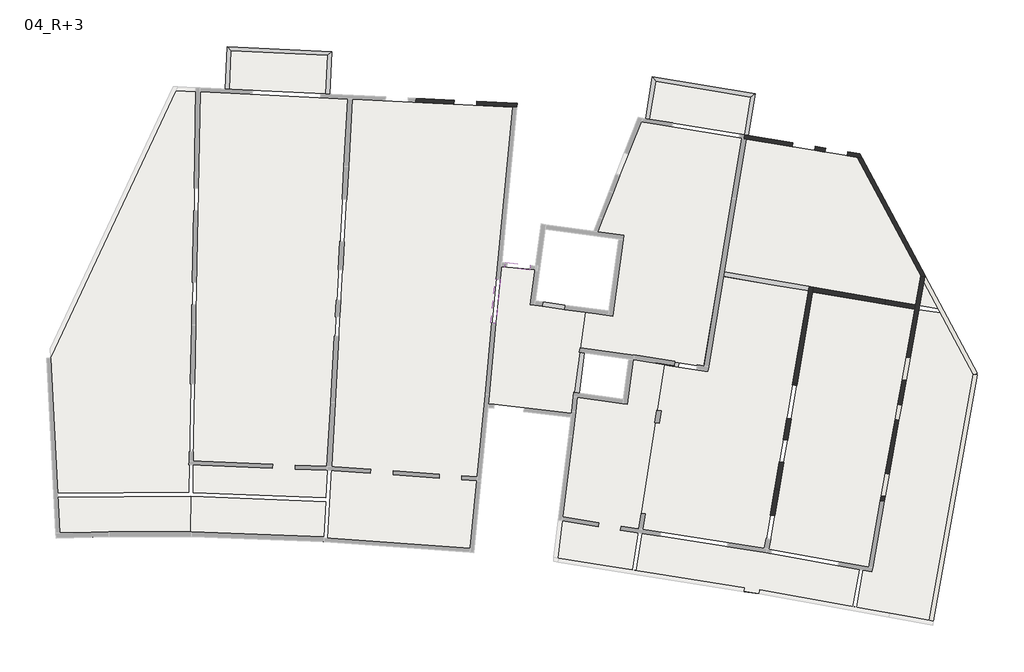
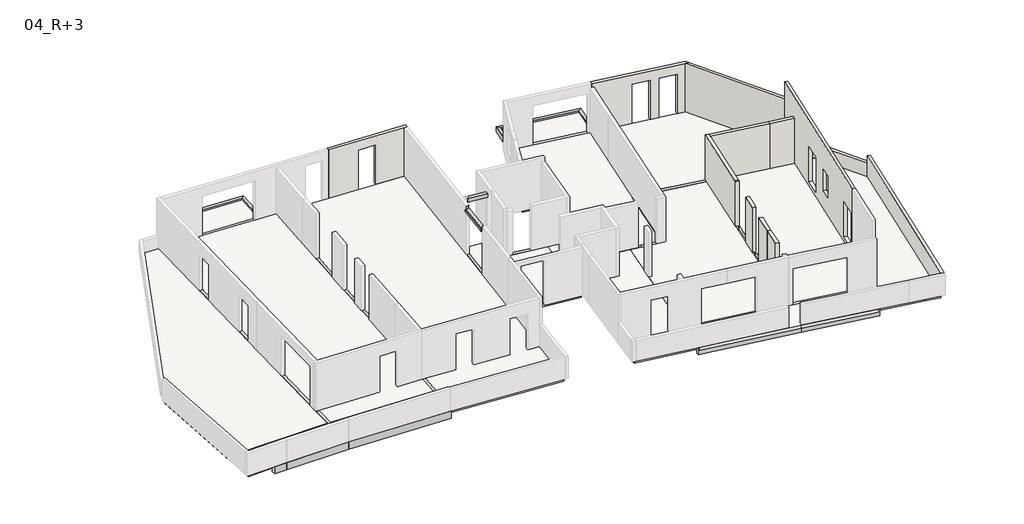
# One storey, part 2 of 2: 20 beams, 14 slabs, 13 walls.
"""IFC4 building model written with IfcOpenShell, lengths in millimetres."""

from ifc_helpers import new_model, si_unit, frame, origin, place, context, project, spatial, polyline, outline, extrude, faceted_brep, element, save

model = new_model("IFC4")

# Units and contexts
model_context = context("Model", 3, world=origin())
ifc_project = project(units=[si_unit("LENGTHUNIT", "METRE", prefix="MILLI")], contexts=[model_context])

# Site, building, storey
site = spatial("IfcSite", under=ifc_project)
building = spatial("IfcBuilding", under=site)
storey = spatial("IfcBuildingStorey", under=building, Name="04_R+3", Elevation=29840.0)

# Beams
placement = place(None, origin())
element("IfcBeam", 1, ObjectType="Poutre_Rect_2013_JBE : 15x30ht", at=placement, inside=storey, context=model_context, shape_type="SweptSolid", body=[
    extrude(outline(polyline([(-4897.6321817, 18555.1374989), (-4972.2208901, 17017.0070505), (-5122.0448377, 17024.2723609), (-5040.1906967, 18712.2268677), (-4897.6321817, 18555.1374989)])), frame((0.0, 0.0, 29640.0), z_axis=(0.0, 0.0, 1.0), x_axis=(1.0, 0.0, 0.0)), (0.0, 0.0, 1.0), 300.0),
])
element("IfcBeam", 2, ObjectType="Poutre_Rect_2013_JBE : 15x30ht", at=placement, inside=storey, context=model_context, shape_type="SweptSolid", body=[
    extrude(outline(polyline([(-1056.2148101, 18368.8552752), (-4897.6321817, 18555.1374989), (-5040.1906967, 18712.2268677), (-899.1209865, 18511.4135742), (-1056.2148101, 18368.8552752)])), frame((0.0, 0.0, 29640.0), z_axis=(0.0, 0.0, 1.0), x_axis=(1.0, 0.0, 0.0)), (0.0, 0.0, 1.0), 300.0),
])
element("IfcBeam", 3, ObjectType="Poutre_Rect_2013_JBE : 15x30ht", at=placement, inside=storey, context=model_context, shape_type="SweptSolid", body=[
    extrude(outline(polyline([(-1056.2148101, 18368.8552752), (-899.1209865, 18511.4135742), (-981.02516, 16823.4647213), (-1130.8491077, 16830.7300317), (-1056.2148101, 18368.8552752)])), frame((0.0, 0.0, 29640.0), z_axis=(0.0, 0.0, 1.0), x_axis=(1.0, 0.0, 0.0)), (0.0, 0.0, 1.0), 300.0),
])
element("IfcBeam", 4, ObjectType="Poutre_Rect_2013_JBE : 15x30ht", at=placement, inside=storey, context=model_context, shape_type="SweptSolid", body=[
    extrude(outline(polyline([(11954.2991438, 17331.4177067), (11708.1373975, 15831.4933949), (11560.1174246, 15855.7851146), (11830.578246, 17503.769691), (11954.2991438, 17331.4177067)])), frame((0.0, 0.0, 29640.0), z_axis=(0.0, 0.0, 1.0), x_axis=(1.0, 0.0, 0.0)), (0.0, 0.0, 1.0), 300.0),
])
element("IfcBeam", 5, ObjectType="Poutre_Rect_2013_JBE : 15x30ht", at=placement, inside=storey, context=model_context, shape_type="SweptSolid", body=[
    extrude(outline(polyline([(15739.3899059, 16709.1812249), (11954.2991438, 17331.4177067), (11830.578246, 17503.769691), (15911.7353663, 16832.8624373), (15739.3899059, 16709.1812249)])), frame((0.0, 0.0, 29640.0), z_axis=(0.0, 0.0, 1.0), x_axis=(1.0, 0.0, 0.0)), (0.0, 0.0, 1.0), 300.0),
])
element("IfcBeam", 6, ObjectType="Poutre_Rect_2013_JBE : 15x30ht", at=placement, inside=storey, context=model_context, shape_type="SweptSolid", body=[
    extrude(outline(polyline([(15492.9959048, 15210.3561242), (15739.3899059, 16709.1812249), (15911.7353663, 16832.8624373), (15641.0158831, 15186.0644036), (15492.9959048, 15210.3561242)])), frame((0.0, 0.0, 29640.0), z_axis=(0.0, 0.0, 1.0), x_axis=(1.0, 0.0, 0.0)), (0.0, 0.0, 1.0), 300.0),
])
element("IfcBeam", 7, ObjectType="Poutre_Rect_2013_JBE : 16x40ht", at=placement, inside=storey, context=model_context, shape_type="Brep", body=[
    faceted_brep([(16067.9119622, -3013.8115401, 29840.0), (16067.9119622, -3013.8115401, 29440.0), (16092.9265957, -2855.7790494, 29440.0), (16092.9265957, -2855.7790494, 29840.0), (15456.0438842, -2916.9602177, 29840.0), (11088.7031384, -2225.6629565, 29840.0), (11088.7031384, -2225.6629565, 29440.0), (11113.4112314, -2067.5819441, 29440.0), (11192.4276254, -2080.0892844, 29440.0), (11113.4112314, -2067.5819441, 29840.0), (11192.4276254, -2080.0892844, 29840.0), (15481.0585177, -2758.927727, 29840.0)], [[[0, 1, 2, 3]], [[1, 0, 4, 5, 6]], [[2, 1, 6, 7, 8]], [[3, 2, 8, 7, 9, 10, 11]], [[0, 3, 11, 10, 9, 5, 4]], [[5, 9, 7, 6]]]),
])
element("IfcBeam", 8, ObjectType="Poutre_Rect_2013_JBE : 16x40ht", at=placement, inside=storey, context=model_context, shape_type="SweptSolid", body=[
    extrude(outline(polyline([(16066.4277326, -3013.5622716), (16094.4108253, -2856.028318), (19851.2645179, -3523.3662642), (19823.0836221, -3680.8650816), (16066.4277326, -3013.5622716)])), frame((0.0, 0.0, 29440.0), z_axis=(0.0, 0.0, 1.0), x_axis=(1.0, 0.0, 0.0)), (0.0, 0.0, 1.0), 400.0),
])
element("IfcBeam", 9, ObjectType="Poutre_Rect_2013_JBE : 18x40ht", at=placement, inside=storey, context=model_context, shape_type="Brep", body=[
    faceted_brep([(17778.7010793, 6542.2881711, 29840.0), (17778.7010793, 6542.2881711, 29440.0), (17601.2414169, 6572.4223416, 29440.0), (17601.2414169, 6572.4223416, 29640.0), (17606.0991196, 6571.5974621, 29640.0), (17606.0991196, 6571.5974621, 29840.0), (17396.5359018, 5366.9147413, 29440.0), (17573.9955642, 5336.7805708, 29440.0), (17573.9955642, 5336.7805708, 29840.0), (17401.4032846, 5366.0882181, 29840.0), (17401.4032846, 5366.0882181, 29640.0), (17396.5359018, 5366.9147413, 29640.0)], [[[0, 1, 2, 3, 4, 5]], [[6, 7, 8, 9, 10, 11]], [[1, 0, 8, 7]], [[2, 1, 7, 6]], [[2, 6, 11, 3]], [[8, 0, 5, 9]], [[10, 4, 3, 11]], [[4, 10, 9, 5]]]),
])
element("IfcBeam", 10, ObjectType="Poutre_Rect_2013_JBE : 18x65ht", at=placement, inside=storey, context=model_context, shape_type="Brep", body=[
    faceted_brep([(-886.7818422, 5474.0786392, 29190.0), (-707.0620227, 5464.0393923, 29190.0), (-707.0620227, 5464.0393923, 29640.0), (-707.6721322, 5464.0734734, 29640.0), (-707.6721322, 5464.0734734, 29840.0), (-872.5323256, 5473.2826534, 29840.0), (-872.5323256, 5473.2826534, 29640.0), (-886.7818422, 5474.0786392, 29640.0), (-655.1925807, 6392.5917931, 29190.0), (-834.9124002, 6402.6310399, 29190.0), (-834.9124002, 6402.6310399, 29640.0), (-821.8837564, 6401.9032528, 29640.0), (-821.8837564, 6401.9032528, 29840.0), (-655.6741432, 6392.6186935, 29840.0), (-655.6741432, 6392.6186935, 29640.0), (-655.1925807, 6392.5917931, 29640.0)], [[[0, 1, 2, 3, 4, 5, 6, 7]], [[8, 9, 10, 11, 12, 13, 14, 15]], [[9, 0, 7, 10]], [[1, 0, 9, 8]], [[1, 8, 15, 2]], [[12, 5, 4, 13]], [[6, 11, 10, 7]], [[11, 6, 5, 12]], [[14, 3, 2, 15]], [[3, 14, 13, 4]]]),
])
element("IfcBeam", 11, ObjectType="Poutre_Rect_2013_JBE : 18x65ht", at=placement, inside=storey, context=model_context, shape_type="Brep", body=[
    faceted_brep([(8345.578671, 8275.1041102, 29190.0), (8369.8748052, 8453.4568445, 29190.0), (8369.8748052, 8453.4568445, 29840.0), (8345.578671, 8275.1041102, 29840.0), (8345.578671, 8275.1041102, 29640.0), (7453.8150119, 8396.5847795, 29190.0), (7453.8150119, 8396.5847795, 29840.0), (7453.8150119, 8396.5847795, 29640.0), (7478.1111461, 8574.9375139, 29190.0), (7478.1111461, 8574.9375139, 29840.0)], [[[0, 1, 2, 3, 4]], [[5, 0, 4, 3, 6, 7]], [[1, 0, 5, 8]], [[2, 1, 8, 9]], [[3, 2, 9, 6]], [[8, 5, 7, 6, 9]]]),
])
element("IfcBeam", 12, ObjectType="Poutre_Rect_2013_JBE : 18x65ht", at=placement, inside=storey, context=model_context, shape_type="Brep", body=[
    faceted_brep([(12849.2155372, 5991.0765211, 29190.0), (12877.9288209, 6168.7716177, 29190.0), (12877.9288209, 6168.7716177, 29840.0), (12849.2155372, 5991.0765211, 29840.0), (12849.2155372, 5991.0765211, 29640.0), (11960.7400544, 6134.6429392, 29840.0), (11989.453338, 6312.3380358, 29840.0), (11989.453338, 6312.3380358, 29190.0), (11960.7400544, 6134.6429392, 29190.0), (12473.4051932, 6051.8027269, 29840.0), (12463.6536661, 6053.3784505, 29840.0)], [[[0, 1, 2, 3, 4]], [[5, 6, 7, 8]], [[5, 8, 0, 4, 3, 9, 10]], [[1, 0, 8, 7]], [[2, 1, 7, 6]], [[3, 2, 6, 5, 10, 9]]]),
])
element("IfcBeam", 13, ObjectType="Poutre_Rect_2013_JBE : 20x20ht", at=placement, inside=storey, context=model_context, shape_type="SweptSolid", body=[
    extrude(outline(polyline([(5969.9988945, 9957.6769673), (5994.2132062, 10156.2057237), (6986.8569881, 10035.1341656), (6979.4329038, 9974.2654429), (6965.3621839, 9871.5448846), (6966.8788622, 9871.3371291), (6962.6426765, 9836.6054092), (5969.9988945, 9957.6769673)])), frame((0.0, 0.0, 32340.0), z_axis=(0.0, 0.0, 1.0), x_axis=(1.0, 0.0, 0.0)), (0.0, 0.0, 1.0), 200.0),
])
element("IfcBeam", 14, ObjectType="Poutre_Rect_2013_JBE : 20x30ht", at=placement, inside=storey, context=model_context, shape_type="Brep", body=[
    faceted_brep([(5789.8801731, 9468.4050705, 32240.0), (5590.8229104, 9487.8011058, 32240.0), (5590.8229104, 9487.8011058, 32340.0), (5630.8498129, 9483.9009054, 32340.0), (5630.8498129, 9483.9009054, 32540.0), (5764.9739737, 9470.8319175, 32540.0), (5764.9739737, 9470.8319175, 32380.0), (5789.8801731, 9468.4050705, 32380.0), (5420.6305312, 7741.1539909, 32240.0), (5619.6877939, 7721.7579556, 32240.0), (5619.6877939, 7721.7579556, 32380.0), (5461.3375455, 7737.1875208, 32380.0), (5461.3375455, 7737.1875208, 32340.0), (5420.6305312, 7741.1539909, 32340.0), (5630.3902791, 9479.165709, 32540.0), (5630.3902791, 9479.165709, 32380.0)], [[[0, 1, 2, 3, 4, 5, 6, 7]], [[8, 9, 10, 11, 12, 13]], [[9, 0, 7, 10]], [[1, 0, 9, 8]], [[1, 8, 13, 2]], [[5, 4, 14]], [[10, 7, 6, 15, 11]], [[6, 5, 14, 15]], [[12, 3, 2, 13]], [[3, 12, 11, 15, 14, 4]]]),
])
element("IfcBeam", 15, ObjectType="Poutre_Rect_2013_JBE : 20x40ht", at=placement, inside=storey, context=model_context, shape_type="Brep", body=[
    faceted_brep([(-10377.5164219, -760.6029286, 29840.0), (-10382.1524229, -560.6566671, 29840.0), (-10382.1524229, -560.6566671, 29640.0), (-10382.1524229, -560.6566671, 29440.0), (-10377.5164219, -760.6029286, 29440.0), (-9738.8472296, -745.7945946, 29440.0), (-9738.8472296, -745.7945946, 29840.0), (-9741.1655416, -545.7945946, 29440.0), (-9741.1655416, -545.7945946, 29840.0), (-9741.1655416, -545.7945946, 29640.0)], [[[0, 1, 2, 3, 4]], [[0, 4, 5, 6]], [[4, 3, 7, 5]], [[7, 3, 2, 1, 8, 9]], [[1, 0, 6, 8]], [[6, 5, 7, 9, 8]]]),
])
element("IfcBeam", 16, ObjectType="Poutre_Rect_2013_JBE : 20x40ht", at=placement, inside=storey, context=model_context, shape_type="Brep", body=[
    faceted_brep([(-6470.1205438, -745.7945946, 29840.0), (-6470.1205438, -745.7945946, 29440.0), (-6470.1205438, -545.7945946, 29440.0), (-6470.1205438, -545.7945946, 29640.0), (-6470.1205438, -547.7580092, 29640.0), (-6470.1205438, -547.7580092, 29840.0), (-9738.8472296, -745.7945946, 29840.0), (-9738.8472296, -745.7945946, 29440.0), (-9741.1655416, -545.7945946, 29440.0), (-9741.1655416, -545.7945946, 29640.0), (-9741.1655416, -545.7945946, 29840.0), (-6521.9524802, -545.7945946, 29840.0), (-6521.9524802, -545.7945946, 29640.0)], [[[0, 1, 2, 3, 4, 5]], [[1, 0, 6, 7]], [[2, 1, 7, 8]], [[2, 8, 9, 10, 11, 12, 3]], [[6, 0, 5, 11, 10]], [[6, 10, 9, 8, 7]], [[12, 4, 3]], [[4, 12, 11, 5]]]),
])
element("IfcBeam", 17, ObjectType="Poutre_Rect_2013_JBE : 20x40ht", at=placement, inside=storey, context=model_context, shape_type="Brep", body=[
    faceted_brep([(-6466.3285104, -545.8665181, 29440.0), (-6473.9125772, -745.7226712, 29440.0), (-6473.9125772, -745.7226712, 29840.0), (-6466.4056281, -547.8987317, 29840.0), (-6466.4056281, -547.8987317, 29640.0), (-6466.3285104, -545.8665181, 29640.0), (-1177.4784378, -946.7097794, 29440.0), (-1177.4784378, -946.7097794, 29840.0), (-1223.2236227, -944.9738582, 29840.0), (-1215.639556, -745.1177051, 29440.0), (-1226.7022559, -943.1590985, 29440.0), (-1215.639556, -745.1177051, 29640.0), (-1226.7022559, -943.1590985, 29840.0), (-1217.7773089, -783.3871672, 29840.0), (-1215.7333235, -746.7963056, 29840.0), (-1215.7333235, -746.7963056, 29640.0)], [[[0, 1, 2, 3, 4, 5]], [[2, 1, 6, 7, 8]], [[1, 0, 9, 10, 6]], [[0, 5, 11, 9]], [[7, 12, 13, 14, 3, 2, 8]], [[10, 12, 7, 6]], [[12, 10, 9, 11, 15, 14, 13]], [[4, 15, 11, 5]], [[15, 4, 3, 14]]]),
])
element("IfcBeam", 18, ObjectType="Poutre_Rect_2013_JBE : 20x50ht", at=placement, inside=storey, context=model_context, shape_type="Brep", body=[
    faceted_brep([(18132.7943524, 9164.6624057, 29840.0), (18132.7943524, 9164.6624057, 29340.0), (18137.8624977, 9194.042281, 29340.0), (18137.8624977, 9194.042281, 29640.0), (18136.1159662, 9183.9176936, 29640.0), (18136.1159662, 9183.9176936, 29840.0), (14647.2755695, 9593.2284562, 29840.0), (14647.2755695, 9593.2284562, 29340.0), (18015.432324, 9012.208025, 29340.0), (18015.432324, 9012.208025, 29640.0), (16766.6679308, 9227.6248476, 29640.0), (16766.6679308, 9227.6248476, 29840.0), (14679.7922688, 9790.5731439, 29340.0), (18043.9095994, 9179.9098388, 29340.0), (14679.7922688, 9790.5731439, 29840.0), (14681.6460381, 9790.2533614, 29840.0), (14681.6460381, 9790.2533614, 29640.0), (18017.104511, 9022.0554836, 29840.0), (18043.9095994, 9179.9098388, 29840.0), (18047.0065975, 9199.5539284, 29840.0), (14679.9795559, 9780.0987631, 29840.0), (18017.104511, 9022.0554836, 29640.0), (14679.9795559, 9780.0987631, 29640.0), (18047.0065975, 9199.5539284, 29640.0)], [[[0, 1, 2, 3, 4, 5]], [[6, 7, 8, 9, 10, 11]], [[12, 2, 1, 13, 8, 7]], [[2, 12, 14, 15, 16, 3]], [[14, 6, 11, 17, 18, 0, 5, 19, 20, 15]], [[7, 6, 14, 12]], [[13, 18, 17, 21, 9, 8]], [[18, 13, 1, 0]], [[3, 16, 22, 23, 4]], [[23, 19, 5, 4]], [[23, 22, 20, 19]], [[20, 22, 16, 15]], [[21, 10, 9]], [[10, 21, 17, 11]]]),
])
element("IfcBeam", 19, ObjectType="Poutre_Rect_2013_JBE : 20x60ht", at=placement, inside=storey, context=model_context, shape_type="Brep", body=[
    faceted_brep([(9132.3970768, 6547.1723849, 29240.0), (9132.3970768, 6547.1723849, 29840.0), (8916.4361163, 4961.8341813, 29840.0), (8916.4361163, 4961.8341813, 29240.0), (8934.2274295, 6574.1685123, 29240.0), (8718.2664691, 4988.8303087, 29240.0), (8718.2664691, 4988.8303087, 29640.0), (8934.2274295, 6574.1685123, 29640.0), (8952.8913041, 6571.625982, 29840.0), (8735.7527171, 4986.4482034, 29840.0), (8952.8913041, 6571.625982, 29640.0), (8735.7527171, 4986.4482034, 29640.0)], [[[0, 1, 2, 3]], [[4, 0, 3, 5]], [[4, 5, 6, 7]], [[2, 1, 8, 9]], [[1, 0, 4, 7, 10, 8]], [[3, 2, 9, 11, 6, 5]], [[11, 10, 7, 6]], [[10, 11, 9, 8]]]),
])
element("IfcBeam", 20, ObjectType="Poutre_Rect_2013_JBE : 25x50ht", at=placement, inside=storey, context=model_context, shape_type="Brep", body=[
    faceted_brep([(14679.6508095, 9574.4290433, 29840.0), (14679.6508095, 9574.4290433, 29340.0), (14432.9233258, 9614.7471385, 29340.0), (14432.9233258, 9614.7471385, 29840.0), (14679.0615908, 9570.8233068, 29840.0), (14679.0615908, 9570.8233068, 29640.0), (14076.5789741, 5883.9174895, 29640.0), (14076.5789741, 5883.9174895, 29340.0), (14042.2038411, 5889.4720769, 29340.0), (14056.5604829, 5978.3196252, 29340.0), (13844.2943763, 6012.6191474, 29340.0), (13844.2943763, 6012.6191474, 29840.0), (14055.0154358, 5978.5692853, 29840.0), (14058.9087202, 6002.2513414, 29840.0), (14646.4562887, 9576.1835557, 29840.0), (14042.2038411, 5889.4720769, 29640.0), (14056.5604829, 5978.3196252, 29640.0), (14055.0154358, 5978.5692853, 29640.0), (14646.4562887, 9576.1835557, 29640.0)], [[[0, 1, 2, 3]], [[1, 0, 4, 5, 6, 7]], [[2, 1, 7, 8, 9, 10]], [[3, 2, 10, 11]], [[0, 3, 11, 12, 13, 14, 4]], [[8, 7, 6, 15]], [[10, 9, 16, 17, 12, 11]], [[9, 8, 15, 16]], [[18, 17, 16, 15, 6, 5]], [[14, 18, 5, 4]], [[18, 14, 13, 12, 17]]]),
])

# Slabs
element("IfcSlab", 21, ObjectType="Dalle Béton - 20 cm", at=placement, inside=storey, context=model_context, shape_type="Brep", body=[
    faceted_brep([(-84.0581099, 16619.7807007, 29640.0), (6293.3492324, 16310.5254411, 29640.0), (4873.6318892, 1681.263946, 29640.0), (4593.763886, -1202.5933393, 29640.0), (-1058.1709907, -794.9001121, 29640.0), (-707.6721322, 5464.0734734, 29640.0), (-655.6741432, 6392.6186935, 29640.0), (-618.6315236, 7054.1009556, 29640.0), (-400.7099089, 10946.5136181, 29640.0), (-84.0581099, 16619.7807007, 29840.0), (-400.7099089, 10946.5136181, 29840.0), (-618.6315236, 7054.1009556, 29840.0), (-655.6741432, 6392.6186935, 29840.0), (-707.6721322, 5464.0734734, 29840.0), (-1058.1709907, -794.9001121, 29840.0), (4593.763886, -1202.5933393, 29840.0), (4873.6318892, 1681.263946, 29840.0), (6293.3492324, 16310.5254411, 29840.0)], [[[0, 1, 2, 3, 4, 5, 6, 7, 8]], [[9, 10, 11, 12, 13, 14, 15, 16, 17]], [[1, 0, 9, 17]], [[8, 7, 6, 5, 4, 14, 13, 12, 11, 10]], [[0, 8, 10, 9]], [[3, 2, 1, 17, 16, 15]], [[4, 3, 15, 14]]]),
])
element("IfcSlab", 22, ObjectType="Dalle Béton - 20 cm", at=placement, inside=storey, context=model_context, shape_type="SweptSolid", body=[
    extrude(outline(polyline([(-1056.2272748, 18368.8502373), (-1130.8143694, 16830.7283471), (-4972.2217295, 17017.0070912), (-4897.6328932, 18555.132786), (-1056.2272748, 18368.8502373)])), frame((0.0, 0.0, 29640.0), z_axis=(0.0, 0.0, 1.0), x_axis=(1.0, 0.0, 0.0)), (0.0, 0.0, 1.0), 200.0),
])
element("IfcSlab", 23, ObjectType="Dalle Béton - 17 cm", at=placement, inside=storey, context=model_context, shape_type="SweptSolid", body=[
    extrude(outline(polyline([(15739.7698458, 16710.1751571), (15493.0188161, 15209.1782367), (11707.9534294, 15830.3684517), (11954.3020467, 17331.4314144), (15739.7698458, 16710.1751571)])), frame((0.0, 0.0, 29670.0), z_axis=(0.0, 0.0, 1.0), x_axis=(1.0, 0.0, 0.0)), (0.0, 0.0, 1.0), 170.0),
])
element("IfcSlab", 24, ObjectType="Dalle Béton - 20 cm", at=placement, inside=storey, context=model_context, shape_type="Brep", body=[
    faceted_brep([(19957.6989971, 14315.5085337, 29640.0), (23179.6439414, 8298.9177306, 29640.0), (18136.1159662, 9183.9176936, 29640.0), (18047.0065975, 9199.5539284, 29640.0), (14679.9795559, 9780.0987631, 29640.0), (14681.6460381, 9790.2533614, 29640.0), (15543.1843168, 15039.9793679, 29640.0), (19957.6989971, 14315.5085337, 29840.0), (15543.1843168, 15039.9793679, 29840.0), (14679.9795559, 9780.0987631, 29840.0), (18047.0065975, 9199.5539284, 29840.0), (18136.1159662, 9183.9176936, 29840.0), (23179.6439414, 8298.9177306, 29840.0)], [[[0, 1, 2, 3, 4, 5, 6]], [[7, 8, 9, 10, 11, 12]], [[1, 0, 7, 12]], [[4, 3, 10, 9]], [[6, 5, 4, 9, 8]], [[0, 6, 8, 7]], [[3, 2, 1, 12, 11, 10]]]),
])
element("IfcSlab", 25, ObjectType="Dalle Béton - 17 cm", at=placement, inside=storey, context=model_context, shape_type="SweptSolid", body=[
    extrude(outline(polyline([(20033.8954714, -2048.6278586), (19746.3804691, -3667.2257584), (16067.9119622, -3013.8115401), (11167.7195324, -2238.1702968), (11422.1634217, -610.2523634), (16342.5514803, -1379.309973), (20033.8954714, -2048.6278586)])), frame((0.0, 0.0, 29670.0), z_axis=(0.0, 0.0, 1.0), x_axis=(1.0, 0.0, 0.0)), (0.0, 0.0, 1.0), 170.0),
])
element("IfcSlab", 26, ObjectType="Dalle Béton - 20 cm", at=placement, inside=storey, context=model_context, shape_type="Brep", body=[
    faceted_brep([(22237.058662, 8277.9811363, 29640.0), (23259.8364839, 8149.1678988, 29640.0), (24569.9967889, 5702.6026787, 29640.0), (22824.0109079, -4056.6138612, 29640.0), (22081.8005798, -3923.827715, 29640.0), (19930.0509568, -3537.2493977, 29640.0), (20222.4297219, -1918.9834053, 29640.0), (16457.8893924, -1238.8284381, 29640.0), (17044.4711472, 2212.7188567, 29640.0), (17190.5946981, 3077.78123, 29640.0), (17336.9488957, 3938.5106718, 29640.0), (17560.0496027, 5250.5970217, 29640.0), (18198.2208794, 8970.809849, 29640.0), (22237.058662, 8277.9811363, 29840.0), (18198.2208794, 8970.809849, 29840.0), (17560.0496027, 5250.5970217, 29840.0), (17336.9488957, 3938.5106718, 29840.0), (17190.5946981, 3077.78123, 29840.0), (17044.4711472, 2212.7188567, 29840.0), (16457.8893924, -1238.8284381, 29840.0), (20222.4297219, -1918.9834053, 29840.0), (19930.0509568, -3537.2493977, 29840.0), (22081.8005798, -3923.827715, 29840.0), (22824.0109079, -4056.6138612, 29840.0), (24569.9967889, 5702.6026787, 29840.0), (23259.8364839, 8149.1678988, 29840.0)], [[[0, 1, 2, 3, 4, 5, 6, 7, 8, 9, 10, 11, 12]], [[13, 14, 15, 16, 17, 18, 19, 20, 21, 22, 23, 24, 25]], [[1, 0, 13, 25]], [[2, 1, 25, 24]], [[3, 2, 24, 23]], [[4, 3, 23, 22]], [[5, 4, 22, 21]], [[6, 5, 21, 20]], [[7, 6, 20, 19]], [[8, 7, 19, 18]], [[9, 8, 18, 17]], [[11, 10, 9, 17, 16, 15]], [[12, 11, 15, 14]], [[0, 12, 14, 13]]]),
])
element("IfcSlab", 27, ObjectType="Dalle Béton - 20 cm", at=placement, inside=storey, context=model_context, shape_type="Brep", body=[
    faceted_brep([(14646.4562887, 9576.1835557, 29640.0), (14679.0615908, 9570.8233068, 29640.0), (16766.6679308, 9227.6248476, 29640.0), (18017.104511, 9022.0554836, 29640.0), (18022.049593, 9021.2425217, 29640.0), (17606.0991196, 6571.5974621, 29640.0), (17401.4032846, 5366.0882181, 29640.0), (16285.0532511, -1208.3996564, 29640.0), (11446.8643835, -452.216976, 29640.0), (11541.0638106, 150.4657498, 29640.0), (11383.3706765, 175.1128296, 29640.0), (11987.9346511, 4082.0598079, 29640.0), (12151.6184582, 4056.7312499, 29640.0), (12180.4629388, 4239.4692063, 29640.0), (12022.4797353, 4264.1616232, 29640.0), (12305.6925851, 6077.0982378, 29640.0), (12463.653666, 6053.3784505, 29640.0), (14025.8156287, 5800.9528048, 29640.0), (14055.0154358, 5978.5692853, 29640.0), (14646.4562887, 9576.1835557, 29840.0), (14055.0154358, 5978.5692853, 29840.0), (14025.8156287, 5800.9528048, 29840.0), (12849.2155372, 5991.0765211, 29840.0), (12473.4051932, 6051.8027269, 29840.0), (12463.653666, 6053.3784505, 29840.0), (12305.6925851, 6077.0982378, 29840.0), (12022.4797353, 4264.1616232, 29840.0), (12180.4629388, 4239.4692063, 29840.0), (12151.6184582, 4056.7312499, 29840.0), (11987.9346511, 4082.0598079, 29840.0), (11383.3706765, 175.1128296, 29840.0), (11541.0638106, 150.4657498, 29840.0), (11446.8643835, -452.216976, 29840.0), (16285.0532511, -1208.3996564, 29840.0), (17401.4032846, 5366.0882181, 29840.0), (17606.0991196, 6571.5974621, 29840.0), (18022.049593, 9021.2425217, 29840.0), (18017.104511, 9022.0554836, 29840.0), (16766.6679308, 9227.6248476, 29840.0), (14679.0615908, 9570.8233068, 29840.0)], [[[0, 1, 2, 3, 4, 5, 6, 7, 8, 9, 10, 11, 12, 13, 14, 15, 16, 17, 18]], [[19, 20, 21, 22, 23, 24, 25, 26, 27, 28, 29, 30, 31, 32, 33, 34, 35, 36, 37, 38, 39]], [[4, 3, 2, 1, 0, 19, 39, 38, 37, 36]], [[7, 6, 5, 4, 36, 35, 34, 33]], [[8, 7, 33, 32]], [[17, 16, 24, 23, 22, 21]], [[0, 18, 17, 21, 20, 19]], [[9, 8, 32, 31]], [[10, 9, 31, 30]], [[11, 10, 30, 29]], [[12, 11, 29, 28]], [[13, 12, 28, 27]], [[14, 13, 27, 26]], [[15, 14, 26, 25]], [[16, 15, 25, 24]]]),
])
element("IfcSlab", 28, ObjectType="Dalle Béton - 20 cm", at=placement, inside=storey, context=model_context, shape_type="SweptSolid", body=[
    extrude(outline(polyline([(12305.8339369, 6077.0746523), (11034.7877019, -2055.1367896), (8081.0248123, -1587.59182), (8285.3967833, 101.550583), (8855.0627621, 4788.5348262), (10854.3246518, 4516.1760494), (11094.5000493, 6279.1943917), (12305.8339369, 6077.0746523)])), frame((0.0, 0.0, 29640.0), z_axis=(0.0, 0.0, 1.0), x_axis=(1.0, 0.0, 0.0)), (0.0, 0.0, 1.0), 200.0),
])
element("IfcSlab", 29, ObjectType="Dalle Béton - 20 cm", at=placement, inside=storey, context=model_context, shape_type="Brep", body=[
    faceted_brep([(15367.2080297, 15068.8590289, 29640.0), (13844.3236266, 6012.6143775, 29640.0), (11077.9104289, 6463.7424983, 29640.0), (8977.5243376, 6751.4546239, 29640.0), (9170.8352843, 8162.6833754, 29640.0), (10247.0028038, 8016.0822561, 29640.0), (10686.5127531, 11224.7495128, 29640.0), (9907.3644282, 11331.477336, 29640.0), (9657.5433736, 11365.6967892, 29640.0), (11375.9056437, 15723.8760304, 29640.0), (15367.2080297, 15068.8590289, 29840.0), (11375.9056437, 15723.8760304, 29840.0), (9657.5433736, 11365.6967892, 29840.0), (9907.3644282, 11331.477336, 29840.0), (10686.5127531, 11224.7495128, 29840.0), (10247.0028038, 8016.0822561, 29840.0), (9170.8352843, 8162.6833754, 29840.0), (8977.5243376, 6751.4546239, 29840.0), (11077.9104289, 6463.7424983, 29840.0), (13844.3236266, 6012.6143775, 29840.0)], [[[0, 1, 2, 3, 4, 5, 6, 7, 8, 9]], [[10, 11, 12, 13, 14, 15, 16, 17, 18, 19]], [[1, 0, 10, 19]], [[3, 2, 18, 17]], [[4, 3, 17, 16]], [[5, 4, 16, 15]], [[6, 5, 15, 14]], [[8, 7, 6, 14, 13, 12]], [[9, 8, 12, 11]], [[0, 9, 11, 10]], [[2, 1, 19, 18]]]),
])
element("IfcSlab", 30, ObjectType="Dalle Béton - 20 cm", at=placement, inside=storey, context=model_context, shape_type="Brep", body=[
    faceted_brep([(5839.9607897, 9982.21198, 29640.0), (7167.9261447, 9851.5569234, 29640.0), (6977.5111672, 8461.4693588, 29640.0), (9170.8352843, 8162.6833754, 29640.0), (8952.8913041, 6571.625982, 29640.0), (8735.7527171, 4986.4482034, 29640.0), (8622.3515401, 4158.5850936, 29640.0), (5548.5735651, 4506.795922, 29640.0), (5311.2009379, 4533.6864847, 29640.0), (5839.9607897, 9982.21198, 29840.0), (5311.2009379, 4533.6864847, 29840.0), (5548.5735651, 4506.795922, 29840.0), (8622.3515401, 4158.5850936, 29840.0), (8735.7527171, 4986.4482034, 29840.0), (8952.8913041, 6571.625982, 29840.0), (9170.8352843, 8162.6833754, 29840.0), (8345.578671, 8275.1041102, 29840.0), (7453.8150119, 8396.5847795, 29840.0), (6977.5111672, 8461.4693588, 29840.0), (7167.9261447, 9851.5569234, 29840.0)], [[[0, 1, 2, 3, 4, 5, 6, 7, 8]], [[9, 10, 11, 12, 13, 14, 15, 16, 17, 18, 19]], [[1, 0, 9, 19]], [[2, 1, 19, 18]], [[3, 2, 18, 17, 16, 15]], [[8, 7, 6, 12, 11, 10]], [[0, 8, 10, 9]], [[6, 5, 4, 3, 15, 14, 13, 12]]]),
])
element("IfcSlab", 31, ObjectType="Dalle Béton - 20 cm", at=placement, inside=storey, context=model_context, shape_type="Brep", body=[
    faceted_brep([(-6099.418731, 16911.4794758, 29640.0), (-264.1068936, 16628.5116834, 29640.0), (-821.8837564, 6401.9032528, 29640.0), (-872.5323256, 5473.2826534, 29640.0), (-1048.5453403, 2246.1567175, 29640.0), (-1128.8491651, 808.5798612, 29640.0), (-6393.1450371, 1012.7060676, 29640.0), (-6400.6245149, 2262.9052429, 29640.0), (-6099.418731, 16911.4794758, 29840.0), (-6400.6245149, 2262.9052429, 29840.0), (-6393.1450371, 1012.7060676, 29840.0), (-1128.8491651, 808.5798612, 29840.0), (-1048.5453403, 2246.1567175, 29840.0), (-872.5323256, 5473.2826534, 29840.0), (-821.8837564, 6401.9032528, 29840.0), (-264.1068936, 16628.5116834, 29840.0)], [[[0, 1, 2, 3, 4, 5, 6, 7]], [[8, 9, 10, 11, 12, 13, 14, 15]], [[1, 0, 8, 15]], [[4, 3, 2, 1, 15, 14, 13, 12]], [[5, 4, 12, 11]], [[6, 5, 11, 10]], [[0, 7, 9, 8]], [[7, 6, 10, 9]]]),
])
element("IfcSlab", 32, ObjectType="Dalle Béton - 20 cm", at=placement, inside=storey, context=model_context, shape_type="SweptSolid", body=[
    extrude(outline(polyline([(-7091.4131885, 16959.5835857), (-6284.6344842, 16920.4610168), (-6559.7330248, 2102.5499586), (-6579.1990509, 1016.2150558), (-11772.2160582, 987.5823035), (-12058.0443978, 6375.9551868), (-7091.4131885, 16959.5835857)])), frame((0.0, 0.0, 29640.0), z_axis=(0.0, 0.0, 1.0), x_axis=(1.0, 0.0, 0.0)), (0.0, 0.0, 1.0), 200.0),
])
element("IfcSlab", 33, ObjectType="Dalle Béton - 20 cm", at=placement, inside=storey, context=model_context, shape_type="Brep", body=[
    faceted_brep([(-11688.4824334, -590.9455417, 29640.0), (-11763.7311484, 827.6266547, 29640.0), (-6496.0455997, 856.6711072, 29640.0), (-6521.9524802, -545.7945946, 29640.0), (-9741.1655416, -545.7945946, 29640.0), (-11688.4824334, -590.9455417, 29840.0), (-10382.1524229, -560.6566671, 29840.0), (-9741.1655416, -545.7945946, 29840.0), (-6521.9524802, -545.7945946, 29840.0), (-6496.0455997, 856.6711072, 29840.0), (-11763.7311484, 827.6266547, 29840.0)], [[[0, 1, 2, 3, 4]], [[5, 6, 7, 8, 9, 10]], [[1, 0, 5, 10]], [[2, 1, 10, 9]], [[3, 2, 9, 8]], [[4, 3, 8, 7]], [[0, 4, 7, 6, 5]]]),
])
element("IfcSlab", 34, ObjectType="Dalle Béton - 20 cm", at=placement, inside=storey, context=model_context, shape_type="Brep", body=[
    faceted_brep([(-6521.9524802, -545.7945946, 29640.0), (-6496.0473579, 856.5759278, 29640.0), (-1137.7742368, 648.8056976, 29640.0), (-1215.639556, -745.1177051, 29640.0), (-1215.7333235, -746.7963056, 29640.0), (-6466.4056281, -547.8987317, 29640.0), (-6470.1205438, -547.7580092, 29640.0), (-6521.9524802, -545.7945946, 29840.0), (-6470.1205438, -547.7580092, 29840.0), (-6466.4056281, -547.8987317, 29840.0), (-1215.7333235, -746.7963056, 29840.0), (-1137.7742368, 648.8056976, 29840.0), (-6496.0473579, 856.5759278, 29840.0)], [[[0, 1, 2, 3, 4, 5, 6]], [[7, 8, 9, 10, 11, 12]], [[1, 0, 7, 12]], [[2, 1, 12, 11]], [[4, 3, 2, 11, 10]], [[0, 6, 5, 4, 10, 9, 8, 7]]]),
])

# Walls
element("IfcWall", 35, ObjectType="Voile BA 16", at=placement, inside=storey, context=model_context, shape_type="SweptSolid", body=[
    extrude(outline(polyline([(22510.4876433, 9548.4858327), (19957.6989971, 14315.5085337), (20156.6839049, 14282.8529027), (22651.5364268, 9624.0188762), (22510.4876433, 9548.4858327)])), frame((0.0, 0.0, 29840.0), z_axis=(0.0, 0.0, 1.0), x_axis=(1.0, 0.0, 0.0)), (0.0, 0.0, 1.0), 2700.0),
])
element("IfcWall", 36, ObjectType="Voile BA 16", at=placement, inside=storey, context=model_context, shape_type="SweptSolid", body=[
    extrude(outline(polyline([(-9007.644329, 0.0), (47.1273978, 0.0), (47.1273978, -3660.0), (-9007.644329, -3660.0), (-9007.644329, 0.0)]), holes=[polyline([(-7904.7330564, -2200.0), (-7904.7330564, -250.0), (-8804.7330563, -250.0), (-8804.7330563, -2200.0), (-7904.7330564, -2200.0)]), polyline([(-3224.7330564, -2200.0), (-3224.7330564, -250.0), (-4124.7330563, -250.0), (-4124.7330563, -2200.0), (-3224.7330564, -2200.0)]), polyline([(-5728.8328265, -1000.0), (-5728.8328265, -2200.0), (-5128.8328265, -2200.0), (-5128.8328265, -1000.0), (-5728.8328265, -1000.0)])]), frame((22623.2535739, 9528.1255751, 29840.0), z_axis=(-0.9843710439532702, 0.17610692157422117, 0.0), x_axis=(0.17610692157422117, 0.9843710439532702, 0.0)), (0.0, 0.0, 1.0), 160.0),
])
element("IfcWall", 37, ObjectType="Voile BA 16", at=placement, inside=storey, context=model_context, shape_type="SweptSolid", body=[
    extrude(outline(polyline([(24584.3200867, 5675.8556599), (22597.7451365, 9385.5430635), (22643.1956541, 9639.5942561), (24725.3688703, 5751.3887034), (24584.3200867, 5675.8556599)])), frame((0.0, 0.0, 29840.0), z_axis=(0.0, 0.0, 1.0), x_axis=(1.0, 0.0, 0.0)), (0.0, 0.0, 1.0), 750.0),
])
element("IfcWall", 38, ObjectType="Voile BA 16", at=placement, inside=storey, context=model_context, shape_type="SweptSolid", body=[
    extrude(outline(polyline([(22823.383738, -4060.730051), (24571.3844284, 5710.3593972), (24728.8840089, 5682.1834833), (22980.7538443, -4089.6297088), (22823.383738, -4060.730051)])), frame((0.0, 0.0, 29840.0), z_axis=(0.0, 0.0, 1.0), x_axis=(1.0, 0.0, 0.0)), (0.0, 0.0, 1.0), 1150.0),
])
element("IfcWall", 39, ObjectType="Voile BA 16", at=placement, inside=storey, context=model_context, shape_type="Brep", body=[
    faceted_brep([(20156.6839049, 14282.8529027, 32540.0), (15455.8642086, 15054.3095664, 32540.0), (15455.8642086, 15054.3095664, 29840.0), (17380.1203125, 14738.5177918, 29840.0), (17380.1203125, 14738.5177918, 32040.0), (18268.2401494, 14592.7674736, 32040.0), (18268.2401494, 14592.7674736, 29840.0), (18672.8280751, 14526.3701065, 29840.0), (18672.8280751, 14526.3701065, 32040.0), (19560.947912, 14380.6197883, 32040.0), (19560.947912, 14380.6197883, 29840.0), (20156.6839049, 14282.8529027, 29840.0), (15481.7753763, 15212.1975374, 32540.0), (20061.490233, 14460.6155215, 32540.0), (20061.490233, 14460.6155215, 29840.0), (19586.8590797, 14538.5077593, 29840.0), (19586.8590797, 14538.5077593, 32040.0), (18698.7392428, 14684.2580775, 32040.0), (18698.7392428, 14684.2580775, 29840.0), (18294.1513171, 14750.6554447, 29840.0), (18294.1513171, 14750.6554447, 32040.0), (17406.0314801, 14896.4057628, 32040.0), (17406.0314801, 14896.4057628, 29840.0), (15481.7753763, 15212.1975374, 29840.0)], [[[0, 1, 2, 3, 4, 5, 6, 7, 8, 9, 10, 11]], [[12, 13, 14, 15, 16, 17, 18, 19, 20, 21, 22, 23]], [[2, 23, 22, 3]], [[14, 11, 10, 15]], [[18, 7, 6, 19]], [[1, 0, 13, 12]], [[0, 11, 14, 13]], [[9, 16, 15, 10]], [[16, 9, 8, 17]], [[17, 8, 7, 18]], [[5, 20, 19, 6]], [[20, 5, 4, 21]], [[21, 4, 3, 22]], [[1, 12, 23, 2]]]),
])
element("IfcWall", 40, ObjectType="Voile BA 16", at=placement, inside=storey, context=model_context, shape_type="Brep", body=[
    faceted_brep([(6453.3479524, 16302.7667325, 32540.0), (2425.8128232, 16498.0712433, 32540.0), (2425.8128232, 16498.0712433, 29840.0), (3952.5429544, 16424.0365616, 29840.0), (3952.5429544, 16424.0365616, 32040.0), (4851.4866398, 16380.4446993, 32040.0), (4851.4866398, 16380.4446993, 29840.0), (6453.3479524, 16302.7667325, 29840.0), (2433.5624876, 16657.8834541, 32540.0), (6468.8208087, 16462.2044277, 32540.0), (6468.8208087, 16462.2044277, 29840.0), (4859.2363042, 16540.25691, 29840.0), (4859.2363042, 16540.25691, 32040.0), (3960.2926188, 16583.8487723, 32040.0), (3960.2926188, 16583.8487723, 29840.0), (2433.5624876, 16657.8834541, 29840.0)], [[[0, 1, 2, 3, 4, 5, 6, 7]], [[8, 9, 10, 11, 12, 13, 14, 15]], [[2, 15, 14, 3]], [[10, 7, 6, 11]], [[1, 0, 9, 8]], [[2, 1, 8, 15]], [[0, 7, 10, 9]], [[13, 4, 3, 14]], [[4, 13, 12, 5]], [[5, 12, 11, 6]]]),
])
element("IfcWall", 41, ObjectType="Voile BA 18", at=placement, inside=storey, context=model_context, shape_type="Brep", body=[
    faceted_brep([(17573.7714736, 5336.8211076, 29840.0), (18190.957992, 8972.0557323, 29840.0), (18221.0871081, 9149.5165206, 29840.0), (18221.0871081, 9149.5165206, 32340.0), (18190.957992, 8972.0557323, 32340.0), (17573.7714736, 5336.8211076, 32340.0), (17396.3109455, 5366.9501795, 29840.0), (17396.3109455, 5366.9501795, 32340.0), (18043.6781826, 9179.9495323, 32340.0), (18043.6781826, 9179.9495323, 29840.0)], [[[0, 1, 2, 3, 4, 5]], [[6, 7, 8, 9]], [[2, 1, 0, 6, 9]], [[5, 4, 3, 8, 7]], [[0, 5, 7, 6]], [[3, 2, 9, 8]]]),
])
element("IfcWall", 42, ObjectType="Voile BA 18", at=placement, inside=storey, context=model_context, shape_type="SweptSolid", body=[
    extrude(outline(polyline([(21045.7452764, 8482.3409416), (18190.957992, 8972.0557323), (18221.0871081, 9149.5165206), (21076.1782435, 8659.7496069), (21045.7452764, 8482.3409416)])), frame((0.0, 0.0, 29840.0), z_axis=(0.0, 0.0, 1.0), x_axis=(1.0, 0.0, 0.0)), (0.0, 0.0, 1.0), 2500.0),
])
element("IfcWall", 43, ObjectType="Voile BA 18", at=placement, inside=storey, context=model_context, shape_type="SweptSolid", body=[
    extrude(outline(polyline([(16860.3989673, 1128.2293765), (16683.0203212, 83.1758775), (16505.5584063, 113.2967796), (16682.9370524, 1158.3502787), (16860.3989673, 1128.2293765)])), frame((0.0, 0.0, 29840.0), z_axis=(0.0, 0.0, 1.0), x_axis=(1.0, 0.0, 0.0)), (0.0, 0.0, 1.0), 2500.0),
])
element("IfcWall", 44, ObjectType="Voile BA 18", at=placement, inside=storey, context=model_context, shape_type="SweptSolid", body=[
    extrude(outline(polyline([(17336.9488957, 3938.5106718), (17190.5946981, 3077.78123), (17013.1416743, 3107.9544687), (17159.4958718, 3968.6839105), (17336.9488957, 3938.5106718)])), frame((0.0, 0.0, 29840.0), z_axis=(0.0, 0.0, 1.0), x_axis=(1.0, 0.0, 0.0)), (0.0, 0.0, 1.0), 2500.0),
])
element("IfcWall", 45, ObjectType="Voile BA 18", at=placement, inside=storey, context=model_context, shape_type="SweptSolid", body=[
    extrude(outline(polyline([(17574.6597554, 5336.6743972), (17560.0510222, 5250.6053847), (17382.5891407, 5280.726484), (17397.1978739, 5366.7954965), (17574.6597554, 5336.6743972)])), frame((0.0, 0.0, 29840.0), z_axis=(0.0, 0.0, 1.0), x_axis=(1.0, 0.0, 0.0)), (0.0, 0.0, 1.0), 2500.0),
])
element("IfcWall", 46, ObjectType="Voile BA 18", at=placement, inside=storey, context=model_context, shape_type="Brep", body=[
    faceted_brep([(16860.3989673, 1128.2293765, 29840.0), (17044.4711472, 2212.7188567, 29840.0), (17044.4711472, 2212.7188567, 32340.0), (16860.3989673, 1128.2293765, 32340.0), (16682.9370524, 1158.3502787, 29840.0), (16682.9370524, 1158.3502787, 32340.0), (16858.1977107, 2190.9253285, 32340.0), (16867.0092322, 2242.8397589, 32340.0), (16867.0092322, 2242.8397589, 31890.0), (16867.0092322, 2242.8397589, 29840.0), (17043.7539995, 2212.8405794, 32340.0)], [[[0, 1, 2, 3]], [[4, 5, 6, 7, 8, 9]], [[1, 0, 4, 9]], [[2, 1, 9, 8, 7, 10]], [[3, 2, 10, 7, 6, 5]], [[0, 3, 5, 4]]]),
])
element("IfcWall", 47, ObjectType="Voile BA 18", at=placement, inside=storey, context=model_context, shape_type="SweptSolid", body=[
    extrude(outline(polyline([(22237.0586613, 8277.9811323), (21045.7452764, 8482.3409416), (21076.1782435, 8659.7496069), (22268.7587156, 8455.1724394), (22237.0586613, 8277.9811323)])), frame((0.0, 0.0, 29840.0), z_axis=(0.0, 0.0, 1.0), x_axis=(1.0, 0.0, 0.0)), (0.0, 0.0, 1.0), 2500.0),
])

save(model, "model.ifc")
